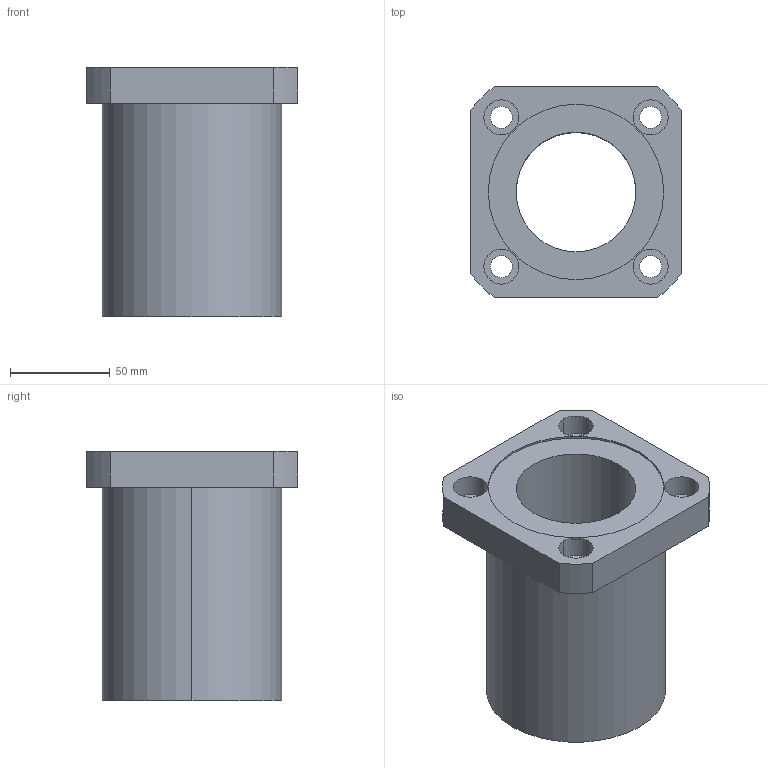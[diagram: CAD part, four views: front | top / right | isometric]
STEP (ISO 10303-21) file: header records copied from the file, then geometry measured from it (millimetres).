
FILE_DESCRIPTION((''),'2;1');
FILE_NAME('C:\Documents and Settings\ｿﾀﾀ蠑ｷ1\ｹﾙﾅﾁ ﾈｭｸ饅\ｺﾎﾇｰﾆﾄﾀﾏ\ﾁｦﾇｰ\LMEK__UU\LMEK60UU.stp','2005-06-15T11:00:04',('ｿﾀﾀ蠑ｷ1'),(''),'Autodesk Inventor 9','Autodesk Inventor 9','');
FILE_SCHEMA(('AUTOMOTIVE_DESIGN { 1 0 10303 214 1 1 1 1 }'));
Length unit declared in the file: millimetre
Products named in the file (1): LMEK__(L)
Bounding box: 106 x 106 x 125 mm (x, y, z)
Volume: 505134.2 mm3; surface area: 80018.6 mm2
Topology: 1 solids, 1 shells, 41 faces, 96 edges, 64 vertices
Faces by surface type: bspline 20, cylinder 12, plane 9
Entity records: 1457 total; most frequent: CARTESIAN_POINT 486, DIRECTION 196, ORIENTED_EDGE 192, EDGE_CURVE 96, AXIS2_PLACEMENT_3D 78, VERTEX_POINT 64, EDGE_LOOP 58, CIRCLE 56
